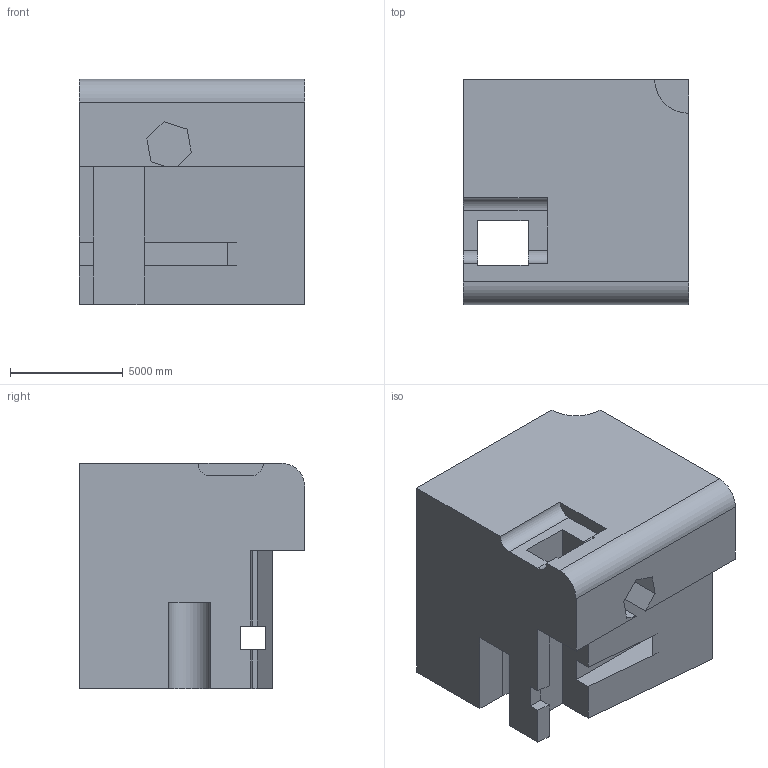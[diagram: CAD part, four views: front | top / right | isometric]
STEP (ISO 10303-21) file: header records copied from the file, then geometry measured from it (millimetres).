
FILE_DESCRIPTION (( 'STEP AP203' ), '1' );
FILE_NAME ('379.STEP', '2022-09-07T13:21:31', ( 'user' ), ( '' ), 'SwSTEP 2.0', 'SolidWorks 2021', '' );
FILE_SCHEMA (( 'CONFIG_CONTROL_DESIGN' ));
Length unit declared in the file: centimetre
Products named in the file (1): 379
Bounding box: 10000 x 10000 x 10000 mm (x, y, z)
Volume: 785970884846.1 mm3; surface area: 683853573.5 mm2
Topology: 1 solids, 1 shells, 47 faces, 141 edges, 94 vertices
Faces by surface type: plane 41, cylinder 6
Entity records: 1652 total; most frequent: CARTESIAN_POINT 283, ORIENTED_EDGE 282, DIRECTION 249, EDGE_CURVE 141, LINE 129, VECTOR 129, VERTEX_POINT 94, AXIS2_PLACEMENT_3D 60
